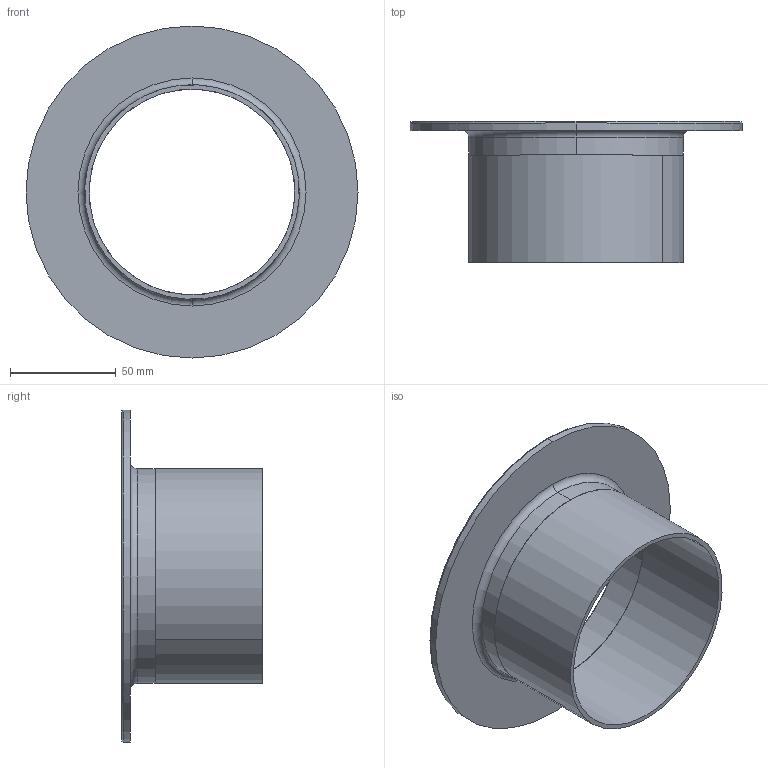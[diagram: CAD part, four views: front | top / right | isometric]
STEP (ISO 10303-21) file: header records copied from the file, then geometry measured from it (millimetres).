
FILE_DESCRIPTION (( 'STEP AP203' ), '1' );
FILE_NAME ('E14WA4.0.STEP', '2018-05-04T18:21:50', ( 'vneprd' ), ( 'Microsoft' ), 'SwSTEP 2.0', 'SolidWorks 2014', '' );
FILE_SCHEMA (( 'CONFIG_CONTROL_DESIGN' ));
Length unit declared in the file: inch
Products named in the file (3): V14WAB4.0; TUBE4.0X2.0; E14WA4.0
Assembly tree (2 placements, depth 2):
  E14WA4.0
    V14WAB4.0
    TUBE4.0X2.0
Bounding box: 157.15 x 66.67 x 157.15 mm (x, y, z)
Volume: 87570.3 mm3; surface area: 78655.9 mm2
Topology: 2 solids, 2 shells, 147 faces, 294 edges, 152 vertices
Faces by surface type: cone 130, cylinder 10, plane 5, torus 2
Entity records: 4025 total; most frequent: DIRECTION 752, CARTESIAN_POINT 598, ORIENTED_EDGE 588, AXIS2_PLACEMENT_3D 306, EDGE_CURVE 294, CIRCLE 154, VERTEX_POINT 152, EDGE_LOOP 152
